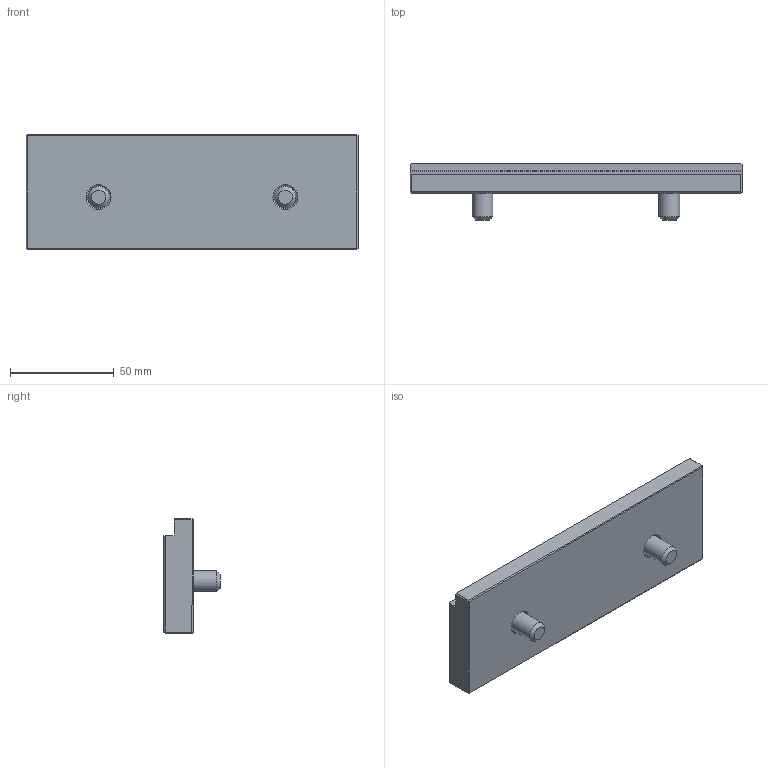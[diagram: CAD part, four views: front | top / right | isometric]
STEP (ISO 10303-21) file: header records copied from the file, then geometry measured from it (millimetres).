
FILE_DESCRIPTION(('STEP AP214'), '1');
FILE_NAME('BB.VS.160.70.040', '', ('UNSPECIFIED'), ('UNSPECIFIED'), 'C3D Converter', 'C3D Toolkit', '');
FILE_SCHEMA(('AUTOMOTIVE_DESIGN { 1 0 10303 214 3 1 1}'));
Length unit declared in the file: millimetre
Products named in the file (1): BB.VS.160.70.040 СБ
Bounding box: 160 x 27 x 55 mm (x, y, z)
Volume: 116183 mm3; surface area: 27043.5 mm2
Topology: 1 solids, 1 shells, 72 faces, 156 edges, 94 vertices
Faces by surface type: plane 49, cone 10, cylinder 9, torus 4
Full cylindrical faces by diameter (mm): 10 x2, 11 x2, 16 x2, 18 x2
Entity records: 2855 total; most frequent: CARTESIAN_POINT 787, DIRECTION 294, ORIENTED_EDGE 264, EDGE_CURVE 132, AXIS2_PLACEMENT_3D 103, EDGE_LOOP 102, VERTEX_POINT 92, LINE 88
